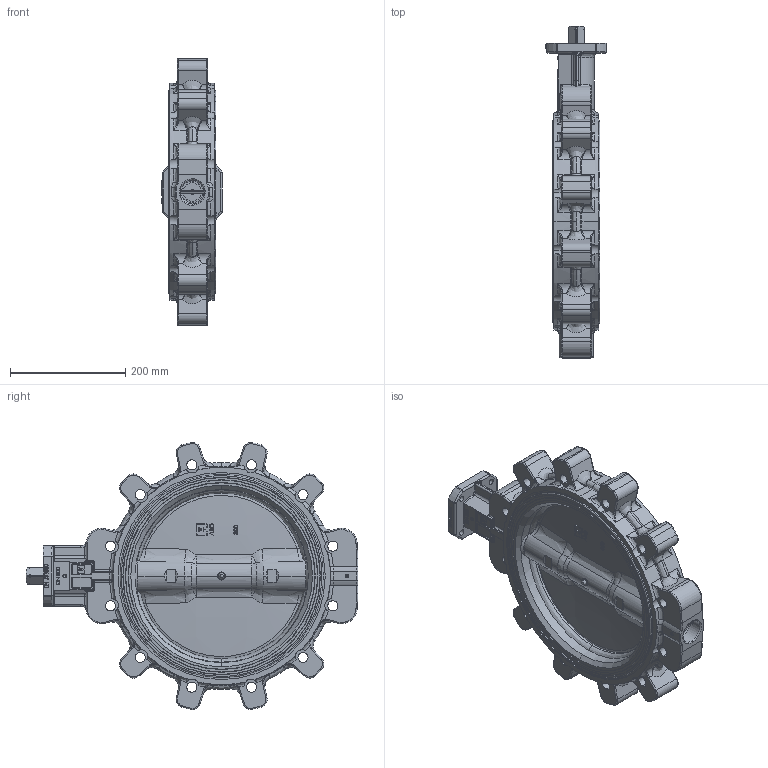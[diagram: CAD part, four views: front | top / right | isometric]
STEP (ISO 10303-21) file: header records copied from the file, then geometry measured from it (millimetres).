
FILE_DESCRIPTION (( 'STEP AP203' ), '1' );
FILE_NAME ('4832166_Axel-Larsson.step', '2023-10-04T11:01:37', ( '' ), ( '' ), 'SwSTEP 2.0', 'SolidWorks 2014', '' );
FILE_SCHEMA (( 'CONFIG_CONTROL_DESIGN' ));
Length unit declared in the file: millimetre
Products named in the file (1): 4832166_Axel-Larsson
Bounding box: 106 x 577 x 464.24 mm (x, y, z)
Volume: 6827990 mm3; surface area: 620008.2 mm2
Topology: 12 solids, 12 shells, 1581 faces, 4000 edges, 2375 vertices
Faces by surface type: bspline 727, cylinder 455, plane 307, cone 92
Entity records: 95493 total; most frequent: CARTESIAN_POINT 63330, ORIENTED_EDGE 7746, DIRECTION 5197, EDGE_CURVE 3873, VERTEX_POINT 2375, AXIS2_PLACEMENT_3D 2025, EDGE_LOOP 1686, ADVANCED_FACE 1581
